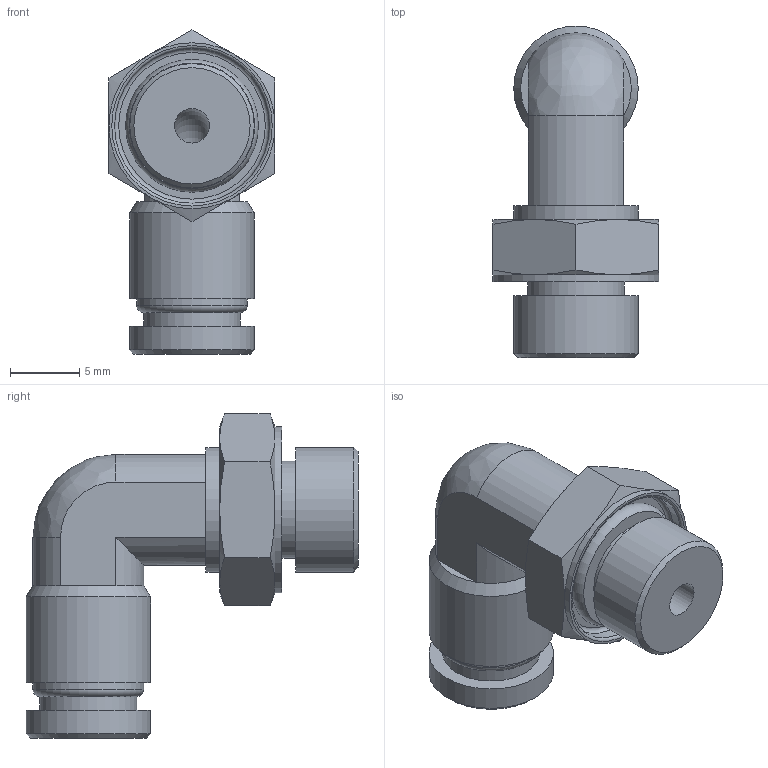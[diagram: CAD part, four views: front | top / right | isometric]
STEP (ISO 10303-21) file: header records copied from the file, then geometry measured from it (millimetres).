
FILE_DESCRIPTION(/* description */ (''),/* implementation_level */ '2;1');
FILE_NAME(/* name */ 'LXH28 0004 B1.stp',/* time_stamp */ '2026-04-30T12:12:10+02:00',/* author */ ('freju'),/* organization */ (''),/* preprocessor_version */ 'ST-DEVELOPER v20.1',/* originating_system */ 'Autodesk Inventor 2026',/* authorisation */ '');
FILE_SCHEMA (('AUTOMOTIVE_DESIGN { 1 0 10303 214 3 1 1 }'));
Length unit declared in the file: millimetre
Products named in the file (4): LXH28 0004 B1; LXH28 0004 B1_1; O-Ring; ISO 3601-1 - A 0060 G
Assembly tree (3 placements, depth 3):
  LXH28 0004 B1
    LXH28 0004 B1_1
    O-Ring
      ISO 3601-1 - A 0060 G
Bounding box: 12 x 24 x 23.43 mm (x, y, z)
Volume: 1898.4 mm3; surface area: 1879.4 mm2
Topology: 2 solids, 2 shells, 64 faces, 135 edges, 84 vertices
Faces by surface type: plane 23, cylinder 17, cone 15, torus 8, bspline 1
Full cylindrical faces by diameter (mm): 2.5 x2, 4 x1, 6 x1, 7 x2, 8 x1, 9 x4, 11.2 x1, 12 x1
Entity records: 1868 total; most frequent: CARTESIAN_POINT 352, DIRECTION 328, ORIENTED_EDGE 270, AXIS2_PLACEMENT_3D 147, EDGE_CURVE 135, VERTEX_POINT 84, EDGE_LOOP 77, CIRCLE 76
